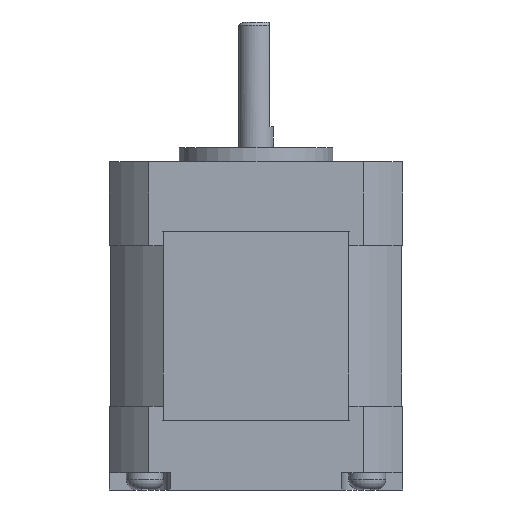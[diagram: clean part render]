
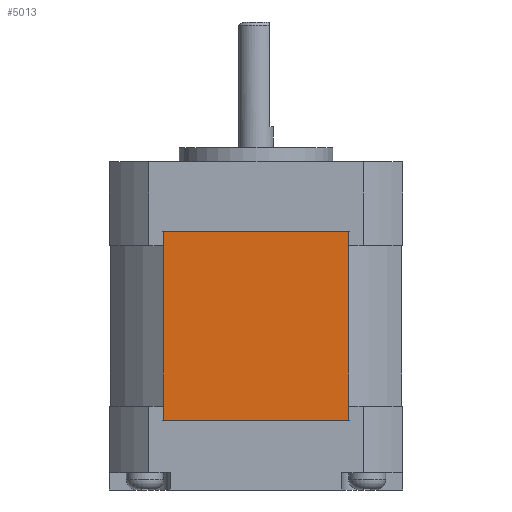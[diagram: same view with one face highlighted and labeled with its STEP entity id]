
A CAD part, front view. The second image highlights one B-rep face of the part: STEP entity #5013.
In plain terms, the highlighted planar face has unit normal (0, -1, 0).
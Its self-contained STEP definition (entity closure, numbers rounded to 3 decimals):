
#684 = DIRECTION ( 'NONE',  ( -1., 0., 0. ) ) ;
#685 = CARTESIAN_POINT ( 'NONE',  ( 13.257, -20.9, -31. ) ) ;
#1534 = DIRECTION ( 'NONE',  ( 0., 0., 1. ) ) ;
#1543 = DIRECTION ( 'NONE',  ( 0., 0., 1. ) ) ;
#1545 = DIRECTION ( 'NONE',  ( -1., 0., 0. ) ) ;
#1546 = CARTESIAN_POINT ( 'NONE',  ( 13.257, -20.9, -4. ) ) ;
#1547 = CARTESIAN_POINT ( 'NONE',  ( 13.257, -20.9, -31. ) ) ;
#1554 = CARTESIAN_POINT ( 'NONE',  ( -13.257, -20.9, -31. ) ) ;
#1995 = FACE_OUTER_BOUND ( 'NONE', #5274, .T. ) ;
#2757 = CARTESIAN_POINT ( 'NONE',  ( 13.257, -20.9, -31. ) ) ;
#2758 = PLANE ( 'NONE',  #3284 ) ;
#2768 = DIRECTION ( 'NONE',  ( 0., 1., 0. ) ) ;
#2769 = DIRECTION ( 'NONE',  ( 0., 0., 1. ) ) ;
#2930 = CARTESIAN_POINT ( 'NONE',  ( 13.257, -20.9, -31. ) ) ;
#3006 = CARTESIAN_POINT ( 'NONE',  ( -13.257, -20.9, -31. ) ) ;
#3176 = CARTESIAN_POINT ( 'NONE',  ( -13.257, -20.9, -4. ) ) ;
#3233 = CARTESIAN_POINT ( 'NONE',  ( 13.257, -20.9, -4. ) ) ;
#3284 = AXIS2_PLACEMENT_3D ( 'NONE', #2757, #2768, #2769 ) ;
#3892 = ORIENTED_EDGE ( 'NONE', *, *, #4252, .T. ) ;
#3893 = ORIENTED_EDGE ( 'NONE', *, *, #4253, .F. ) ;
#3894 = ORIENTED_EDGE ( 'NONE', *, *, #3984, .F. ) ;
#3895 = ORIENTED_EDGE ( 'NONE', *, *, #4256, .T. ) ;
#3984 = EDGE_CURVE ( 'NONE', #5394, #5480, #4864, .T. ) ;
#4252 = EDGE_CURVE ( 'NONE', #5909, #5791, #4624, .T. ) ;
#4253 = EDGE_CURVE ( 'NONE', #5480, #5791, #4628, .T. ) ;
#4256 = EDGE_CURVE ( 'NONE', #5394, #5909, #4635, .T. ) ;
#4621 = VECTOR ( 'NONE', #1545, 1000. ) ;
#4624 = LINE ( 'NONE', #1546, #4621 ) ;
#4627 = VECTOR ( 'NONE', #1534, 1000. ) ;
#4628 = LINE ( 'NONE', #1554, #4630 ) ;
#4630 = VECTOR ( 'NONE', #1543, 1000. ) ;
#4635 = LINE ( 'NONE', #1547, #4627 ) ;
#4864 = LINE ( 'NONE', #685, #4865 ) ;
#4865 = VECTOR ( 'NONE', #684, 1000. ) ;
#5013 = ADVANCED_FACE ( 'NONE', ( #1995 ), #2758, .F. ) ;
#5274 = EDGE_LOOP ( 'NONE', ( #3892, #3893, #3894, #3895 ) ) ;
#5394 = VERTEX_POINT ( 'NONE', #2930 ) ;
#5480 = VERTEX_POINT ( 'NONE', #3006 ) ;
#5791 = VERTEX_POINT ( 'NONE', #3176 ) ;
#5909 = VERTEX_POINT ( 'NONE', #3233 ) ;
